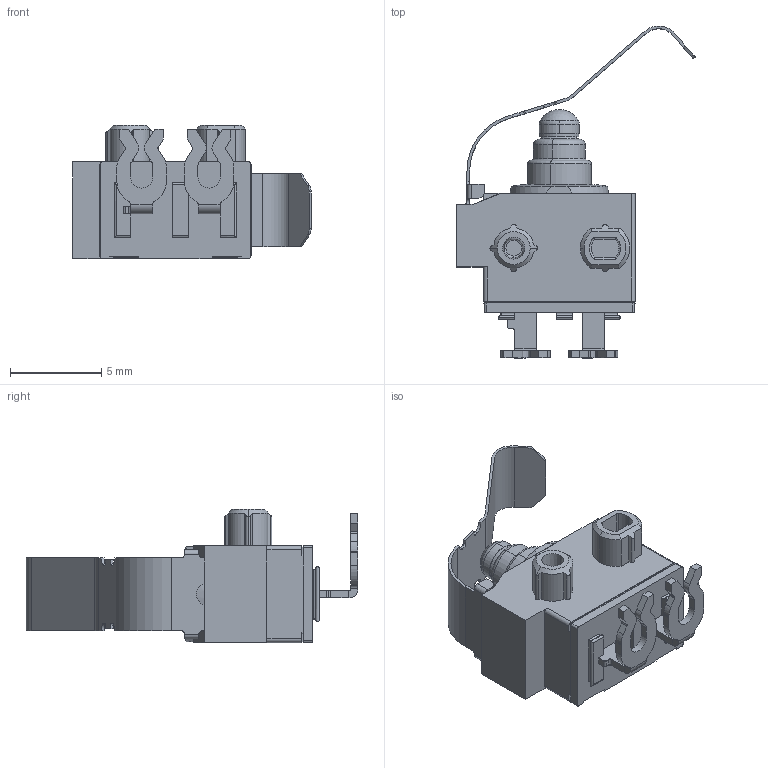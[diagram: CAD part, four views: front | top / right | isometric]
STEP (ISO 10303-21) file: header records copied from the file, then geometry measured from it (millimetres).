
FILE_DESCRIPTION (( 'STEP AP214' ), '1' );
FILE_NAME ('SOLID^SPVQ822400.STEP', '2021-03-01T06:47:43', ( '' ), ( '' ), 'SwSTEP 2.0', 'SolidWorks 2019', '' );
FILE_SCHEMA (( 'AUTOMOTIVE_DESIGN' ));
Length unit declared in the file: millimetre
Products named in the file (1): SOLID^SPVQ822400
Bounding box: 13.06 x 18.18 x 7.3 mm (x, y, z)
Volume: 379.2 mm3; surface area: 601.1 mm2
Topology: 1 solids, 1 shells, 553 faces, 1503 edges, 978 vertices
Faces by surface type: plane 265, cylinder 146, bspline 99, cone 18, torus 17, sphere 8
Entity records: 26640 total; most frequent: CARTESIAN_POINT 7230, ORIENTED_EDGE 2998, DIRECTION 2457, EDGE_CURVE 1499, VERTEX_POINT 978, LINE 923, VECTOR 923, AXIS2_PLACEMENT_3D 767
